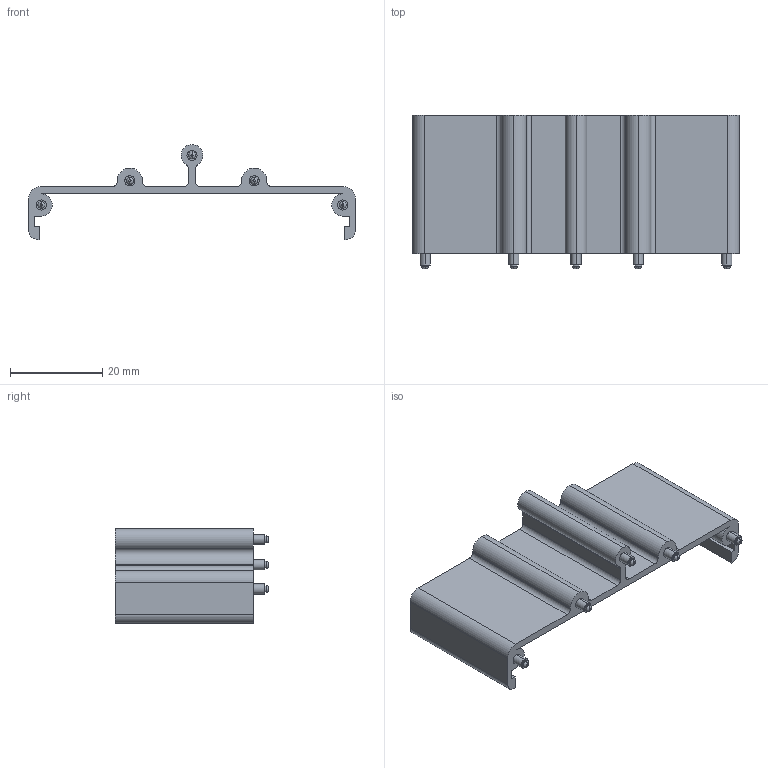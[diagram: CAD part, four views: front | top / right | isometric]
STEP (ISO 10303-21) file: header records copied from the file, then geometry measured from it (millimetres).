
FILE_DESCRIPTION (( 'STEP AP203' ), '1' );
FILE_NAME ('SP7-E30.STEP', '2019-09-12T16:52:52', ( '' ), ( '' ), 'SwSTEP 2.0', 'SolidWorks 2012', '' );
FILE_SCHEMA (( 'CONFIG_CONTROL_DESIGN' ));
Length unit declared in the file: millimetre
Products named in the file (1): SP7-E30
Bounding box: 71 x 33.3 x 20.65 mm (x, y, z)
Volume: 7089 mm3; surface area: 7270 mm2
Topology: 1 solids, 1 shells, 115 faces, 269 edges, 176 vertices
Faces by surface type: cylinder 60, plane 45, torus 10
Entity records: 3420 total; most frequent: DIRECTION 641, CARTESIAN_POINT 561, ORIENTED_EDGE 538, EDGE_CURVE 269, AXIS2_PLACEMENT_3D 256, VERTEX_POINT 176, CIRCLE 140, EDGE_LOOP 135
